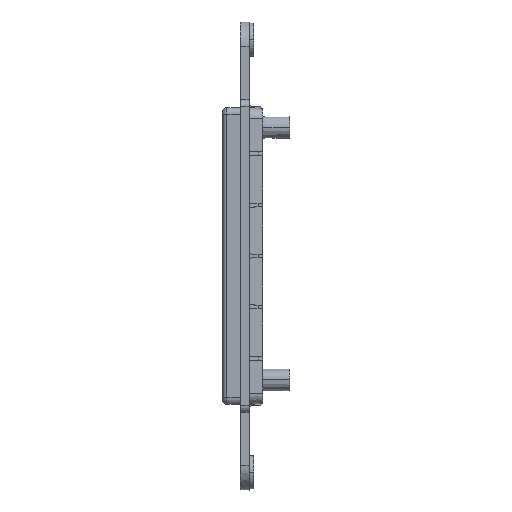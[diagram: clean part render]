
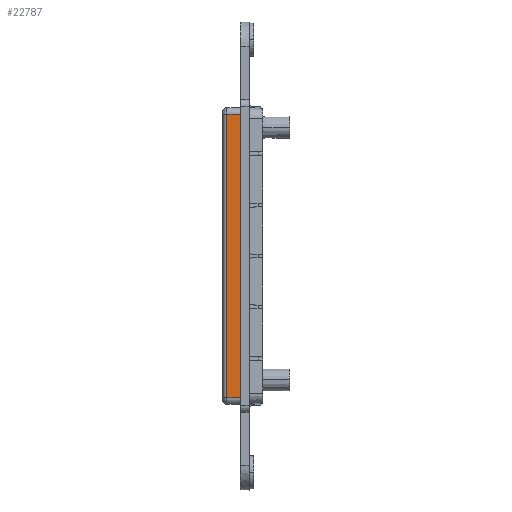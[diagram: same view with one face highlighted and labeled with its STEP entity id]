
A CAD part, left-side view. The second image highlights one B-rep face of the part: STEP entity #22787.
In plain terms, the highlighted planar face has unit normal (-1, 0.018, 0).
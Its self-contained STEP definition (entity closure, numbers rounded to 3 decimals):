
#9845=DIRECTION('',(0.,0.,1.));
#9846=VECTOR('',#9845,63.5);
#9847=CARTESIAN_POINT('',(-39.447,5.017,
-31.75));
#9848=LINE('',#9847,#9846);
#9852=DIRECTION('',(-0.017,-1.,0.));
#9853=VECTOR('',#9852,3.018);
#9854=CARTESIAN_POINT('',(-39.447,5.017,31.75));
#9855=LINE('',#9854,#9853);
#9859=DIRECTION('',(0.,0.,-1.));
#9860=VECTOR('',#9859,63.5);
#9861=CARTESIAN_POINT('',(-39.5,2.,31.75));
#9862=LINE('',#9861,#9860);
#9866=DIRECTION('',(-0.017,-1.,0.));
#9867=VECTOR('',#9866,3.018);
#9868=CARTESIAN_POINT('',(-39.447,5.017,
-31.75));
#9869=LINE('',#9868,#9867);
#13462=CARTESIAN_POINT('',(-39.5,2.,31.75));
#13463=CARTESIAN_POINT('',(-39.5,2.,-31.75));
#13464=VERTEX_POINT('',#13462);
#13465=VERTEX_POINT('',#13463);
#13596=CARTESIAN_POINT('',(-39.447,5.017,-31.75));
#13597=VERTEX_POINT('',#13596);
#13600=CARTESIAN_POINT('',(-39.447,5.017,
31.75));
#13601=VERTEX_POINT('',#13600);
#22774=CARTESIAN_POINT('',(-39.5,2.,-48.224));
#22775=DIRECTION('',(-1.,0.017,0.));
#22776=DIRECTION('',(0.,0.,1.));
#22777=AXIS2_PLACEMENT_3D('',#22774,#22775,#22776);
#22778=PLANE('',#22777);
#22779=ORIENTED_EDGE('',*,*,#17217,.T.);
#22781=ORIENTED_EDGE('',*,*,#22780,.T.);
#22782=ORIENTED_EDGE('',*,*,#21547,.T.);
#22784=ORIENTED_EDGE('',*,*,#22783,.F.);
#22785=EDGE_LOOP('',(#22779,#22781,#22782,#22784));
#22786=FACE_OUTER_BOUND('',#22785,.F.);
#22787=ADVANCED_FACE('',(#22786),#22778,.T.);
#17217=EDGE_CURVE('',#13597,#13601,#9848,.T.);
#21547=EDGE_CURVE('',#13464,#13465,#9862,.T.);
#22780=EDGE_CURVE('',#13601,#13464,#9855,.T.);
#22783=EDGE_CURVE('',#13597,#13465,#9869,.T.);
